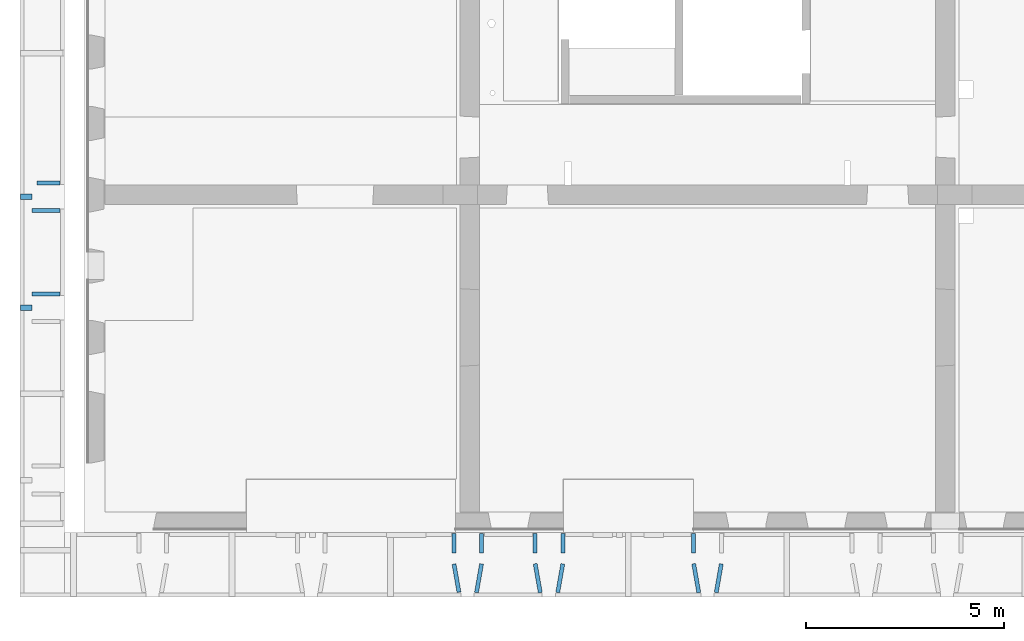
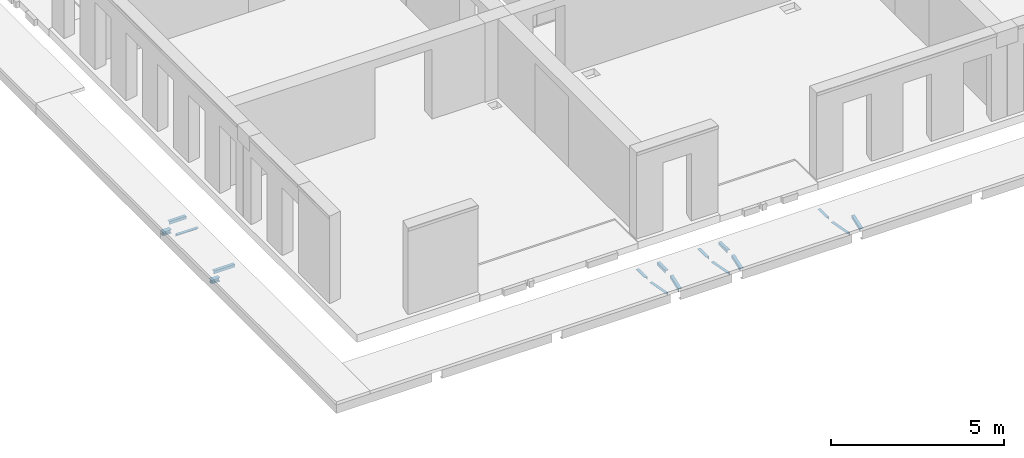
# One storey, part 12 of 27: 16 beams.
"""IFC2X3 building model written with IfcOpenShell, lengths in millimetres."""

from ifc_helpers import new_model, entity, si_unit, converted_unit, derived_unit, direction, frame, frame_2d, origin, place, context, subcontext, project, spatial, polyline, circle_curve, parameter, trimmed, segment, composite_curve, i_section, outline, extrude, material, type_object, element, save


model = new_model("IFC2X3")

# Units and contexts
model_context = context("Model", 3, precision=0.01, world=origin(), true_north=direction((6.12303176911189e-17, 1.0)))
body_context = subcontext(model_context, "Body", "Model", "MODEL_VIEW")
ifc_project = project(units=[si_unit("LENGTHUNIT", "METRE", prefix="MILLI"), si_unit("AREAUNIT", "SQUARE_METRE"), si_unit("VOLUMEUNIT", "CUBIC_METRE"), converted_unit("PLANEANGLEUNIT", "DEGREE", entity("IfcRatioMeasure", 0.0174532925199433), si_unit("PLANEANGLEUNIT", "RADIAN"), dimensions=[0, 0, 0, 0, 0, 0, 0]), si_unit("MASSUNIT", "GRAM", prefix="KILO"), derived_unit("MASSDENSITYUNIT", [(si_unit("MASSUNIT", "GRAM", prefix="KILO"), 1), (si_unit("LENGTHUNIT", "METRE"), -3)]), si_unit("TIMEUNIT", "SECOND"), si_unit("FREQUENCYUNIT", "HERTZ"), si_unit("THERMODYNAMICTEMPERATUREUNIT", "DEGREE_CELSIUS"), derived_unit("THERMALTRANSMITTANCEUNIT", [(si_unit("MASSUNIT", "GRAM", prefix="KILO"), 1), (si_unit("THERMODYNAMICTEMPERATUREUNIT", "KELVIN"), -1), (si_unit("TIMEUNIT", "SECOND"), -3)]), derived_unit("VOLUMETRICFLOWRATEUNIT", [(si_unit("LENGTHUNIT", "METRE"), 3), (si_unit("TIMEUNIT", "SECOND"), -1)]), si_unit("ELECTRICCURRENTUNIT", "AMPERE"), si_unit("ELECTRICVOLTAGEUNIT", "VOLT"), si_unit("POWERUNIT", "WATT"), si_unit("FORCEUNIT", "NEWTON", prefix="KILO"), si_unit("ILLUMINANCEUNIT", "LUX"), si_unit("LUMINOUSFLUXUNIT", "LUMEN"), si_unit("LUMINOUSINTENSITYUNIT", "CANDELA"), derived_unit("USERDEFINED", [(si_unit("MASSUNIT", "GRAM", prefix="KILO"), -1), (si_unit("LENGTHUNIT", "METRE"), -2), (si_unit("TIMEUNIT", "SECOND"), 3), (si_unit("LUMINOUSFLUXUNIT", "LUMEN"), 1)]), derived_unit("LINEARVELOCITYUNIT", [(si_unit("LENGTHUNIT", "METRE"), 1), (si_unit("TIMEUNIT", "SECOND"), -1)]), si_unit("PRESSUREUNIT", "PASCAL"), derived_unit("USERDEFINED", [(si_unit("LENGTHUNIT", "METRE"), -2), (si_unit("MASSUNIT", "GRAM", prefix="KILO"), 1), (si_unit("TIMEUNIT", "SECOND"), -2)])], contexts=[model_context])

# Site, building, storey
site_placement = place(None, origin())
site = spatial("IfcSite", under=ifc_project, at=site_placement, Name="Default", CompositionType="ELEMENT")
building_placement = place(site_placement, origin())
building = spatial("IfcBuilding", under=site, at=building_placement, Name="niet gebruiken", CompositionType="ELEMENT")
storey_placement = place(building_placement, frame((0.0, 0.0, 18000.0)))
storey = spatial("IfcBuildingStorey", under=building, at=storey_placement, Name="05 vijfde verdieping", CompositionType="ELEMENT", Elevation=18000.0)

# Beams
ifc_material = material(Name="NLRS_h2_staal")
beam_type_1 = type_object("IfcBeamType", Name="NLRS_28.11_SF_WPB_stalen ligger HEA_gen:ligger HEA 140", PredefinedType="BEAM")
beam_1_placement = place(storey_placement, frame((124700.0, 10250.0, -1015.0), z_axis=(0.0, 0.0, 1.0), x_axis=(-1.0, 0.0, 0.0)))
element("IfcBeam", 1, at=beam_1_placement, inside=storey, type_object=beam_type_1, material=ifc_material, Name="NLRS_28.11_SF_WPB_stalen ligger HEA_gen:ligger HEA 140", ObjectType="NLRS_28.11_SF_WPB_stalen ligger HEA_gen:ligger HEA 140", context=body_context, shape_type="SweptSolid", body=[
    extrude(i_section(OverallWidth=140.000000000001, OverallDepth=133.0, WebThickness=5.49999999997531, FlangeThickness=8.49999999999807, FilletRadius=11.9999999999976, at=frame_2d((-4.33431068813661e-12, 0.0), x_axis=(0.0, 1.0))), frame((0.0, 0.0, -66.5000000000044), z_axis=(1.0, 0.0, 0.0), x_axis=(0.0, 0.0, -1.0)), (0.0, 0.0, 1.0), 289.999999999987),
])
beam_2_placement = place(storey_placement, frame((124700.0, 7450.0, -1015.0), z_axis=(0.0, 0.0, 1.0), x_axis=(-1.0, 0.0, 0.0)))
element("IfcBeam", 2, at=beam_2_placement, inside=storey, type_object=beam_type_1, material=ifc_material, Name="NLRS_28.11_SF_WPB_stalen ligger HEA_gen:ligger HEA 140", ObjectType="NLRS_28.11_SF_WPB_stalen ligger HEA_gen:ligger HEA 140", context=body_context, shape_type="SweptSolid", body=[
    extrude(i_section(OverallWidth=140.000000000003, OverallDepth=133.0, WebThickness=5.49999999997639, FlangeThickness=8.49999999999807, FilletRadius=11.9999999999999, at=frame_2d((-4.33431068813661e-12, -5.40012479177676e-13), x_axis=(0.0, 1.0))), frame((0.0, 0.0, -66.5000000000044), z_axis=(1.0, 0.0, 0.0), x_axis=(0.0, 0.0, -1.0)), (0.0, 0.0, 1.0), 289.999999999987),
])
beam_type_2 = type_object("IfcBeamType", Name="NLRS_28.11_SF_WPB_stalen ligger hoekprofiel gelijkzijdig_gen:ligger gelijzijdig hoekprofiel LEQU_100x100x10", PredefinedType="BEAM")
beam_3_placement = place(storey_placement, frame((125919.845824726, 9949.75423520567, -1015.0), z_axis=(0.0, 0.0, 1.0), x_axis=(-1.0, 0.0, 0.0)))
element("IfcBeam", 3, at=beam_3_placement, inside=storey, type_object=beam_type_2, material=ifc_material, Name="NLRS_28.11_SF_WPB_stalen ligger hoekprofiel gelijkzijdig_gen:ligger gelijzijdig hoekprofiel LEQU_100x100x10", ObjectType="NLRS_28.11_SF_WPB_stalen ligger hoekprofiel gelijkzijdig_gen:ligger gelijzijdig hoekprofiel LEQU_100x100x10", context=body_context, shape_type="SweptSolid", body=[
    extrude(outline(composite_curve([segment(polyline([(-37.7777777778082, -37.7777777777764), (62.2222222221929, -37.7777777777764)]), True, "CONTINUOUS"), segment(polyline([(62.2222222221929, -37.7777777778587), (62.2222222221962, -33.7777777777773)]), True, "CONTINUOUS"), segment(trimmed(circle_curve(frame_2d((56.222222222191, -33.7777777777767), x_axis=(1.0, 0.0)), 6.00000000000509), [parameter(0.0)], [parameter(89.9999999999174)], True, "PARAMETER"), True, "CONTINUOUS"), segment(polyline([(56.2222222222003, -27.7777777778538), (-15.7777777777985, -27.7777777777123)]), True, "CONTINUOUS"), segment(trimmed(circle_curve(frame_2d((-15.7777777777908, -15.777777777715), x_axis=(0.0, -1.0)), 11.9999999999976), [parameter(269.999999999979)], [parameter(0.0)], True, "PARAMETER"), False, "CONTINUOUS"), segment(polyline([(-27.7777777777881, -15.7777777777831), (-27.7777777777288, 56.222222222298)]), True, "CONTINUOUS"), segment(trimmed(circle_curve(frame_2d((-33.7777777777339, 56.2222222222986), x_axis=(1.0, 0.0)), 6.00000000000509), [parameter(0.0)], [parameter(89.9999999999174)], True, "PARAMETER"), True, "CONTINUOUS"), segment(polyline([(-33.7777777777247, 62.2222222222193), (-37.7777777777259, 62.2222222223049)]), True, "CONTINUOUS"), segment(polyline([(-37.7777777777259, 62.2222222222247), (-37.7777777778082, -37.7777777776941)]), True, "CONTINUOUS")], self_intersect=False)), frame((512.699999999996, 37.7777777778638, -37.7777777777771), z_axis=(1.0, 0.0, 0.0), x_axis=(0.0, 0.0, -1.0)), (0.0, 0.0, 1.0), 707.299999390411),
])
beam_4_placement = place(storey_placement, frame((125919.845824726, 10550.2457647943, -1015.0), z_axis=(0.0, 0.0, 1.0), x_axis=(-1.0, 0.0, 0.0)))
element("IfcBeam", 4, at=beam_4_placement, inside=storey, type_object=beam_type_2, material=ifc_material, Name="NLRS_28.11_SF_WPB_stalen ligger hoekprofiel gelijkzijdig_gen:ligger gelijzijdig hoekprofiel LEQU_100x100x10", ObjectType="NLRS_28.11_SF_WPB_stalen ligger hoekprofiel gelijkzijdig_gen:ligger gelijzijdig hoekprofiel LEQU_100x100x10", context=body_context, shape_type="SweptSolid", body=[
    extrude(outline(composite_curve([segment(polyline([(-37.7777777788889, -62.222222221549), (-33.7777777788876, -62.222222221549)]), True, "CONTINUOUS"), segment(trimmed(circle_curve(frame_2d((-33.7777777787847, -56.2222222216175), x_axis=(0.0, -1.0)), 6.00000000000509), [parameter(0.0)], [parameter(89.9999999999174)], True, "PARAMETER"), True, "CONTINUOUS"), segment(polyline([(-27.7777777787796, -56.222222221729), (-27.7777777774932, 15.7777777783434)]), True, "CONTINUOUS"), segment(trimmed(circle_curve(frame_2d((-15.7777777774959, 15.7777777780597), x_axis=(-1.0, 0.0)), 11.9999999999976), [parameter(269.999999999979)], [parameter(0.0)], True, "PARAMETER"), False, "CONTINUOUS"), segment(polyline([(-15.7777777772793, 27.777777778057), (56.2222222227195, 27.777777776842)]), True, "CONTINUOUS"), segment(trimmed(circle_curve(frame_2d((56.2222222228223, 33.7777777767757), x_axis=(0.0, -1.0)), 6.00000000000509), [parameter(0.0)], [parameter(89.9999999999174)], True, "PARAMETER"), True, "CONTINUOUS"), segment(polyline([(62.2222222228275, 33.7777777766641), (62.2222222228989, 37.7777777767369)]), True, "CONTINUOUS"), segment(polyline([(62.2222222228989, 37.7777777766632), (-37.7777777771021, 37.7777777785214)]), True, "CONTINUOUS"), segment(polyline([(-37.7777777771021, 37.77777777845), (-37.7777777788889, -62.2222222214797)]), True, "CONTINUOUS")], self_intersect=False)), frame((512.699999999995, -37.7777777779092, -37.7777777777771), z_axis=(1.0, 0.0, 0.0), x_axis=(0.0, 0.0, -1.0)), (0.0, 0.0, 1.0), 577.145824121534),
])
beam_5_placement = place(storey_placement, frame((125919.845824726, 7750.2457647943, -1015.0), z_axis=(0.0, 0.0, 1.0), x_axis=(-1.0, 0.0, 0.0)))
element("IfcBeam", 5, at=beam_5_placement, inside=storey, type_object=beam_type_2, material=ifc_material, Name="NLRS_28.11_SF_WPB_stalen ligger hoekprofiel gelijkzijdig_gen:ligger gelijzijdig hoekprofiel LEQU_100x100x10", ObjectType="NLRS_28.11_SF_WPB_stalen ligger hoekprofiel gelijkzijdig_gen:ligger gelijzijdig hoekprofiel LEQU_100x100x10", context=body_context, shape_type="SweptSolid", body=[
    extrude(outline(composite_curve([segment(polyline([(-37.7777777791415, -62.2222222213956), (-33.7777777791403, -62.2222222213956)]), True, "CONTINUOUS"), segment(trimmed(circle_curve(frame_2d((-33.7777777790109, -56.2222222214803), x_axis=(0.0, -1.0)), 6.00000000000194), [parameter(0.0)], [parameter(89.9999999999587)], True, "PARAMETER"), True, "CONTINUOUS"), segment(polyline([(-27.7777777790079, -56.222222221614), (-27.7777777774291, 15.7777777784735)]), True, "CONTINUOUS"), segment(trimmed(circle_curve(frame_2d((-15.7777777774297, 15.7777777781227), x_axis=(-1.0, 0.0)), 11.9999999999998), [parameter(270.0)], [parameter(0.0)], True, "PARAMETER"), False, "CONTINUOUS"), segment(polyline([(-15.7777777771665, 27.7777777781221), (56.2222222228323, 27.777777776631)]), True, "CONTINUOUS"), segment(trimmed(circle_curve(frame_2d((56.2222222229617, 33.7777777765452), x_axis=(0.0, -1.0)), 6.00000000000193), [parameter(0.0)], [parameter(89.9999999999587)], True, "PARAMETER"), True, "CONTINUOUS"), segment(polyline([(62.2222222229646, 33.7777777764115), (62.2222222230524, 37.7777777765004)]), True, "CONTINUOUS"), segment(polyline([(62.2222222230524, 37.7777777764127), (-37.7777777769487, 37.7777777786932)]), True, "CONTINUOUS"), segment(polyline([(-37.7777777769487, 37.7777777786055), (-37.7777777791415, -62.2222222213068)]), True, "CONTINUOUS")], self_intersect=False)), frame((512.699999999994, -37.7777777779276, -37.7777777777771), z_axis=(1.0, 0.0, 0.0), x_axis=(0.0, 0.0, -1.0)), (0.0, 0.0, 1.0), 707.299999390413),
])
beam_6_placement = place(storey_placement, frame((141350.0, 1234.0, -1015.0), z_axis=(0.0, 0.0, 1.0), x_axis=(0.0, 1.0, 0.0)))
element("IfcBeam", 6, at=beam_6_placement, inside=storey, type_object=beam_type_2, material=ifc_material, Name="NLRS_28.11_SF_WPB_stalen ligger hoekprofiel gelijkzijdig_gen:ligger gelijzijdig hoekprofiel LEQU_100x100x10", ObjectType="NLRS_28.11_SF_WPB_stalen ligger hoekprofiel gelijkzijdig_gen:ligger gelijzijdig hoekprofiel LEQU_100x100x10", context=body_context, shape_type="SweptSolid", body=[
    extrude(outline(composite_curve([segment(polyline([(-37.7777777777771, -37.7777777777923), (62.222222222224, -37.7777777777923)]), True, "CONTINUOUS"), segment(polyline([(62.2222222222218, -37.7777777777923), (62.2222222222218, -33.7777777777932)]), True, "CONTINUOUS"), segment(trimmed(circle_curve(frame_2d((56.2222222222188, -33.7777777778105), x_axis=(1.0, 0.0)), 6.00000000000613), [parameter(0.0)], [parameter(89.9999999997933)], True, "PARAMETER"), True, "CONTINUOUS"), segment(polyline([(56.2222222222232, -27.7777777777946), (-15.7777777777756, -27.7777777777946)]), True, "CONTINUOUS"), segment(trimmed(circle_curve(frame_2d((-15.77777777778, -15.7777777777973), x_axis=(0.0, -1.0)), 11.9999999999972), [parameter(269.99999999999)], [parameter(0.0)], True, "PARAMETER"), False, "CONTINUOUS"), segment(polyline([(-27.7777777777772, -15.7777777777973), (-27.7777777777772, 56.2222222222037)]), True, "CONTINUOUS"), segment(trimmed(circle_curve(frame_2d((-33.7777777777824, 56.2222222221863), x_axis=(1.0, 0.0)), 6.00000000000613), [parameter(0.0)], [parameter(89.9999999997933)], True, "PARAMETER"), True, "CONTINUOUS"), segment(polyline([(-33.777777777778, 62.2222222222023), (-37.7777777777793, 62.2222222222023)]), True, "CONTINUOUS"), segment(polyline([(-37.7777777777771, 62.2222222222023), (-37.7777777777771, -37.7777777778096)]), True, "CONTINUOUS")], self_intersect=False)), frame((20.0, -62.2222222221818, -37.7777777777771), z_axis=(1.0, 0.0, 0.0), x_axis=(0.0, 0.0, -1.0)), (0.0, 0.0, 1.0), 496.000000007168),
])
beam_7_placement = place(storey_placement, frame((141480.667404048, 250.795493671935, -1015.0), z_axis=(0.0, 0.0, 1.0), x_axis=(-0.173785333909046, 0.984783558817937, 0.0)))
element("IfcBeam", 7, at=beam_7_placement, inside=storey, type_object=beam_type_2, material=ifc_material, Name="NLRS_28.11_SF_WPB_stalen ligger hoekprofiel gelijkzijdig_gen:ligger gelijzijdig hoekprofiel LEQU_100x100x10", ObjectType="NLRS_28.11_SF_WPB_stalen ligger hoekprofiel gelijkzijdig_gen:ligger gelijzijdig hoekprofiel LEQU_100x100x10", context=body_context, shape_type="SweptSolid", body=[
    extrude(outline(composite_curve([segment(polyline([(-37.7777777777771, -37.7777777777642), (62.222222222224, -37.7777777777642)]), True, "CONTINUOUS"), segment(polyline([(62.2222222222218, -37.7777777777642), (62.2222222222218, -33.7777777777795)]), True, "CONTINUOUS"), segment(trimmed(circle_curve(frame_2d((56.2222222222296, -33.7777777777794), x_axis=(1.0, 0.0)), 5.9999999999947), [parameter(0.0)], [parameter(90.0000000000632)], True, "PARAMETER"), True, "CONTINUOUS"), segment(polyline([(56.2222222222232, -27.7777777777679), (-15.7777777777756, -27.7777777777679)]), True, "CONTINUOUS"), segment(trimmed(circle_curve(frame_2d((-15.7777777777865, -15.7777777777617), x_axis=(0.0, -1.0)), 11.9999999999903), [parameter(269.999999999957)], [parameter(0.0)], True, "PARAMETER"), False, "CONTINUOUS"), segment(polyline([(-27.7777777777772, -15.7777777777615), (-27.7777777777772, 56.2222222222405)]), True, "CONTINUOUS"), segment(trimmed(circle_curve(frame_2d((-33.7777777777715, 56.2222222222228), x_axis=(1.0, 0.0)), 5.99999999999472), [parameter(0.0)], [parameter(90.0000000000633)], True, "PARAMETER"), True, "CONTINUOUS"), segment(polyline([(-33.777777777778, 62.2222222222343), (-37.7777777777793, 62.2222222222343)]), True, "CONTINUOUS"), segment(polyline([(-37.7777777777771, 62.2222222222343), (-37.7777777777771, -37.7777777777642)]), True, "CONTINUOUS")], self_intersect=False)), frame((0.0, -62.2222222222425, -37.7777777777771), z_axis=(1.0, 0.0, 0.0), x_axis=(0.0, 0.0, -1.0)), (0.0, 0.0, 1.0), 740.000000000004),
])
beam_8_placement = place(storey_placement, frame((138150.0, 1234.0, -1015.0), z_axis=(0.0, 0.0, 1.0), x_axis=(0.0, 1.0, 0.0)))
element("IfcBeam", 8, at=beam_8_placement, inside=storey, type_object=beam_type_2, material=ifc_material, Name="NLRS_28.11_SF_WPB_stalen ligger hoekprofiel gelijkzijdig_gen:ligger gelijzijdig hoekprofiel LEQU_100x100x10", ObjectType="NLRS_28.11_SF_WPB_stalen ligger hoekprofiel gelijkzijdig_gen:ligger gelijzijdig hoekprofiel LEQU_100x100x10", context=body_context, shape_type="SweptSolid", body=[
    extrude(outline(composite_curve([segment(polyline([(-37.7777777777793, -62.222222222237), (-33.777777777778, -62.222222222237)]), True, "CONTINUOUS"), segment(trimmed(circle_curve(frame_2d((-33.7777777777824, -56.222222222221), x_axis=(0.0, -1.0)), 6.00000000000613), [parameter(0.0)], [parameter(89.9999999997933)], True, "PARAMETER"), True, "CONTINUOUS"), segment(polyline([(-27.7777777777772, -56.2222222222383), (-27.7777777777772, 15.7777777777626)]), True, "CONTINUOUS"), segment(trimmed(circle_curve(frame_2d((-15.77777777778, 15.7777777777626), x_axis=(-1.0, 0.0)), 11.9999999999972), [parameter(269.99999999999)], [parameter(0.0)], True, "PARAMETER"), False, "CONTINUOUS"), segment(polyline([(-15.7777777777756, 27.7777777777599), (56.2222222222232, 27.7777777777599)]), True, "CONTINUOUS"), segment(trimmed(circle_curve(frame_2d((56.2222222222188, 33.7777777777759), x_axis=(0.0, -1.0)), 6.00000000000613), [parameter(0.0)], [parameter(89.9999999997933)], True, "PARAMETER"), True, "CONTINUOUS"), segment(polyline([(62.2222222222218, 33.7777777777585), (62.2222222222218, 37.7777777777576)]), True, "CONTINUOUS"), segment(polyline([(62.222222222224, 37.7777777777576), (-37.7777777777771, 37.7777777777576)]), True, "CONTINUOUS"), segment(polyline([(-37.7777777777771, 37.7777777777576), (-37.7777777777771, -62.222222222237)]), True, "CONTINUOUS")], self_intersect=False)), frame((20.0, 62.2222222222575, -37.7777777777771), z_axis=(1.0, 0.0, 0.0), x_axis=(0.0, 0.0, -1.0)), (0.0, 0.0, 1.0), 495.999999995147),
])
beam_9_placement = place(storey_placement, frame((138019.712800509, 252.949986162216, -1015.0), z_axis=(0.0, 0.0, 1.0), x_axis=(0.173785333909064, 0.984783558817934, 0.0)))
element("IfcBeam", 9, at=beam_9_placement, inside=storey, type_object=beam_type_2, material=ifc_material, Name="NLRS_28.11_SF_WPB_stalen ligger hoekprofiel gelijkzijdig_gen:ligger gelijzijdig hoekprofiel LEQU_100x100x10", ObjectType="NLRS_28.11_SF_WPB_stalen ligger hoekprofiel gelijkzijdig_gen:ligger gelijzijdig hoekprofiel LEQU_100x100x10", context=body_context, shape_type="SweptSolid", body=[
    extrude(outline(composite_curve([segment(polyline([(-37.7777777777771, -62.2222222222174), (-33.7777777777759, -62.2222222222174)]), True, "CONTINUOUS"), segment(trimmed(circle_curve(frame_2d((-33.7777777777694, -56.2222222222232), x_axis=(0.0, -1.0)), 5.99999999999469), [parameter(0.0)], [parameter(90.0000000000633)], True, "PARAMETER"), True, "CONTINUOUS"), segment(polyline([(-27.7777777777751, -56.2222222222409), (-27.7777777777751, 15.7777777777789)]), True, "CONTINUOUS"), segment(trimmed(circle_curve(frame_2d((-15.7777777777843, 15.7777777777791), x_axis=(-1.0, 0.0)), 11.9999999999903), [parameter(269.999999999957)], [parameter(0.0)], True, "PARAMETER"), False, "CONTINUOUS"), segment(polyline([(-15.7777777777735, 27.7777777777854), (56.2222222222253, 27.7777777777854)]), True, "CONTINUOUS"), segment(trimmed(circle_curve(frame_2d((56.2222222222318, 33.7777777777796), x_axis=(0.0, -1.0)), 5.99999999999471), [parameter(0.0)], [parameter(90.0000000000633)], True, "PARAMETER"), True, "CONTINUOUS"), segment(polyline([(62.222222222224, 33.7777777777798), (62.222222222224, 37.7777777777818)]), True, "CONTINUOUS"), segment(polyline([(62.2222222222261, 37.7777777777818), (-37.777777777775, 37.7777777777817)]), True, "CONTINUOUS"), segment(polyline([(-37.777777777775, 37.7777777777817), (-37.777777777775, -62.2222222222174)]), True, "CONTINUOUS")], self_intersect=False)), frame((0.0, 62.2222222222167, -37.777777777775), z_axis=(1.0, 0.0, 0.0), x_axis=(0.0, 0.0, -1.0)), (0.0, 0.0, 1.0), 732.812217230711),
])
beam_10_placement = place(storey_placement, frame((142019.712800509, 252.949986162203, -1015.0), z_axis=(0.0, 0.0, 1.0), x_axis=(0.173785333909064, 0.984783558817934, 0.0)))
element("IfcBeam", 10, at=beam_10_placement, inside=storey, type_object=beam_type_2, material=ifc_material, Name="NLRS_28.11_SF_WPB_stalen ligger hoekprofiel gelijkzijdig_gen:ligger gelijzijdig hoekprofiel LEQU_100x100x10", ObjectType="NLRS_28.11_SF_WPB_stalen ligger hoekprofiel gelijkzijdig_gen:ligger gelijzijdig hoekprofiel LEQU_100x100x10", context=body_context, shape_type="SweptSolid", body=[
    extrude(outline(composite_curve([segment(polyline([(-37.7777777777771, -62.2222222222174), (-33.7777777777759, -62.2222222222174)]), True, "CONTINUOUS"), segment(trimmed(circle_curve(frame_2d((-33.7777777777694, -56.2222222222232), x_axis=(0.0, -1.0)), 5.99999999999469), [parameter(0.0)], [parameter(90.0000000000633)], True, "PARAMETER"), True, "CONTINUOUS"), segment(polyline([(-27.7777777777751, -56.2222222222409), (-27.7777777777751, 15.7777777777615)]), True, "CONTINUOUS"), segment(trimmed(circle_curve(frame_2d((-15.7777777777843, 15.7777777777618), x_axis=(-1.0, 0.0)), 11.9999999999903), [parameter(269.999999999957)], [parameter(0.0)], True, "PARAMETER"), False, "CONTINUOUS"), segment(polyline([(-15.7777777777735, 27.7777777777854), (56.2222222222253, 27.7777777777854)]), True, "CONTINUOUS"), segment(trimmed(circle_curve(frame_2d((56.2222222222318, 33.7777777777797), x_axis=(0.0, -1.0)), 5.99999999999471), [parameter(0.0)], [parameter(90.0000000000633)], True, "PARAMETER"), True, "CONTINUOUS"), segment(polyline([(62.222222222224, 33.7777777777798), (62.222222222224, 37.7777777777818)]), True, "CONTINUOUS"), segment(polyline([(62.2222222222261, 37.7777777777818), (-37.777777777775, 37.7777777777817)]), True, "CONTINUOUS"), segment(polyline([(-37.777777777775, 37.7777777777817), (-37.777777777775, -62.2222222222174)]), True, "CONTINUOUS")], self_intersect=False)), frame((0.0, 62.2222222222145, -37.777777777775), z_axis=(1.0, 0.0, 0.0), x_axis=(0.0, 0.0, -1.0)), (0.0, 0.0, 1.0), 732.812217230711),
])
beam_11_placement = place(storey_placement, frame((135300.0, 1234.0, -1015.0), z_axis=(0.0, 0.0, 1.0), x_axis=(0.0, 1.0, 0.0)))
element("IfcBeam", 11, at=beam_11_placement, inside=storey, type_object=beam_type_2, material=ifc_material, Name="NLRS_28.11_SF_WPB_stalen ligger hoekprofiel gelijkzijdig_gen:ligger gelijzijdig hoekprofiel LEQU_100x100x10", ObjectType="NLRS_28.11_SF_WPB_stalen ligger hoekprofiel gelijkzijdig_gen:ligger gelijzijdig hoekprofiel LEQU_100x100x10", context=body_context, shape_type="SweptSolid", body=[
    extrude(outline(composite_curve([segment(polyline([(-37.7777777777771, -37.777777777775), (62.222222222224, -37.777777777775)]), True, "CONTINUOUS"), segment(polyline([(62.2222222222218, -37.777777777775), (62.2222222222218, -33.7777777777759)]), True, "CONTINUOUS"), segment(trimmed(circle_curve(frame_2d((56.2222222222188, -33.7777777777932), x_axis=(1.0, 0.0)), 6.00000000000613), [parameter(0.0)], [parameter(89.9999999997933)], True, "PARAMETER"), True, "CONTINUOUS"), segment(polyline([(56.2222222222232, -27.7777777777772), (-15.7777777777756, -27.7777777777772)]), True, "CONTINUOUS"), segment(trimmed(circle_curve(frame_2d((-15.77777777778, -15.77777777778), x_axis=(0.0, -1.0)), 11.9999999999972), [parameter(269.99999999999)], [parameter(0.0)], True, "PARAMETER"), False, "CONTINUOUS"), segment(polyline([(-27.7777777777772, -15.77777777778), (-27.7777777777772, 56.222222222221)]), True, "CONTINUOUS"), segment(trimmed(circle_curve(frame_2d((-33.7777777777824, 56.2222222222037), x_axis=(1.0, 0.0)), 6.00000000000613), [parameter(0.0)], [parameter(89.9999999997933)], True, "PARAMETER"), True, "CONTINUOUS"), segment(polyline([(-33.777777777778, 62.2222222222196), (-37.7777777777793, 62.2222222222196)]), True, "CONTINUOUS"), segment(polyline([(-37.7777777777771, 62.2222222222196), (-37.7777777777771, -37.7777777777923)]), True, "CONTINUOUS")], self_intersect=False)), frame((20.0, -62.2222222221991, -37.7777777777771), z_axis=(1.0, 0.0, 0.0), x_axis=(0.0, 0.0, -1.0)), (0.0, 0.0, 1.0), 496.000000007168),
])
beam_12_placement = place(storey_placement, frame((135428.701764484, 261.934117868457, -1015.0), z_axis=(0.0, 0.0, 1.0), x_axis=(-0.173785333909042, 0.984783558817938, 0.0)))
element("IfcBeam", 12, at=beam_12_placement, inside=storey, type_object=beam_type_2, material=ifc_material, Name="NLRS_28.11_SF_WPB_stalen ligger hoekprofiel gelijkzijdig_gen:ligger gelijzijdig hoekprofiel LEQU_100x100x10", ObjectType="NLRS_28.11_SF_WPB_stalen ligger hoekprofiel gelijkzijdig_gen:ligger gelijzijdig hoekprofiel LEQU_100x100x10", context=body_context, shape_type="SweptSolid", body=[
    extrude(outline(composite_curve([segment(polyline([(-37.7777777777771, -37.7777777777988), (62.222222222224, -37.7777777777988)]), True, "CONTINUOUS"), segment(polyline([(62.2222222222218, -37.7777777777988), (62.2222222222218, -33.7777777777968)]), True, "CONTINUOUS"), segment(trimmed(circle_curve(frame_2d((56.2222222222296, -33.7777777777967), x_axis=(1.0, 0.0)), 5.9999999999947), [parameter(0.0)], [parameter(90.0000000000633)], True, "PARAMETER"), True, "CONTINUOUS"), segment(polyline([(56.2222222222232, -27.7777777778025), (-15.7777777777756, -27.7777777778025)]), True, "CONTINUOUS"), segment(trimmed(circle_curve(frame_2d((-15.7777777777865, -15.777777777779), x_axis=(0.0, -1.0)), 11.9999999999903), [parameter(269.999999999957)], [parameter(0.0)], True, "PARAMETER"), False, "CONTINUOUS"), segment(polyline([(-27.7777777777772, -15.7777777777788), (-27.7777777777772, 56.2222222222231)]), True, "CONTINUOUS"), segment(trimmed(circle_curve(frame_2d((-33.7777777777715, 56.2222222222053), x_axis=(1.0, 0.0)), 5.99999999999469), [parameter(0.0)], [parameter(90.0000000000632)], True, "PARAMETER"), True, "CONTINUOUS"), segment(polyline([(-33.777777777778, 62.2222222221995), (-37.7777777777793, 62.2222222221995)]), True, "CONTINUOUS"), segment(polyline([(-37.7777777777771, 62.2222222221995), (-37.7777777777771, -37.7777777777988)]), True, "CONTINUOUS")], self_intersect=False)), frame((0.0, -62.2222222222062, -37.7777777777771), z_axis=(1.0, 0.0, 0.0), x_axis=(0.0, 0.0, -1.0)), (0.0, 0.0, 1.0), 720.000000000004),
])
beam_13_placement = place(storey_placement, frame((137350.0, 1234.0, -1015.0), z_axis=(0.0, 0.0, 1.0), x_axis=(0.0, 1.0, 0.0)))
element("IfcBeam", 13, at=beam_13_placement, inside=storey, type_object=beam_type_2, material=ifc_material, Name="NLRS_28.11_SF_WPB_stalen ligger hoekprofiel gelijkzijdig_gen:ligger gelijzijdig hoekprofiel LEQU_100x100x10", ObjectType="NLRS_28.11_SF_WPB_stalen ligger hoekprofiel gelijkzijdig_gen:ligger gelijzijdig hoekprofiel LEQU_100x100x10", context=body_context, shape_type="SweptSolid", body=[
    extrude(outline(composite_curve([segment(polyline([(-37.7777777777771, -37.7777777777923), (62.222222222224, -37.7777777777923)]), True, "CONTINUOUS"), segment(polyline([(62.2222222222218, -37.7777777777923), (62.2222222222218, -33.7777777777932)]), True, "CONTINUOUS"), segment(trimmed(circle_curve(frame_2d((56.2222222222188, -33.7777777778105), x_axis=(1.0, 0.0)), 6.00000000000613), [parameter(0.0)], [parameter(89.9999999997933)], True, "PARAMETER"), True, "CONTINUOUS"), segment(polyline([(56.2222222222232, -27.7777777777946), (-15.7777777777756, -27.7777777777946)]), True, "CONTINUOUS"), segment(trimmed(circle_curve(frame_2d((-15.77777777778, -15.7777777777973), x_axis=(0.0, -1.0)), 11.9999999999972), [parameter(269.99999999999)], [parameter(0.0)], True, "PARAMETER"), False, "CONTINUOUS"), segment(polyline([(-27.7777777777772, -15.7777777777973), (-27.7777777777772, 56.2222222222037)]), True, "CONTINUOUS"), segment(trimmed(circle_curve(frame_2d((-33.7777777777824, 56.2222222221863), x_axis=(1.0, 0.0)), 6.00000000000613), [parameter(0.0)], [parameter(89.9999999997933)], True, "PARAMETER"), True, "CONTINUOUS"), segment(polyline([(-33.777777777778, 62.2222222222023), (-37.7777777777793, 62.2222222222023)]), True, "CONTINUOUS"), segment(polyline([(-37.7777777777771, 62.2222222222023), (-37.7777777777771, -37.7777777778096)]), True, "CONTINUOUS")], self_intersect=False)), frame((20.0, -62.2222222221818, -37.7777777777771), z_axis=(1.0, 0.0, 0.0), x_axis=(0.0, 0.0, -1.0)), (0.0, 0.0, 1.0), 496.000000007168),
])
beam_14_placement = place(storey_placement, frame((137480.667404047, 250.795493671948, -1015.0), z_axis=(0.0, 0.0, 1.0), x_axis=(-0.173785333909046, 0.984783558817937, 0.0)))
element("IfcBeam", 14, at=beam_14_placement, inside=storey, type_object=beam_type_2, material=ifc_material, Name="NLRS_28.11_SF_WPB_stalen ligger hoekprofiel gelijkzijdig_gen:ligger gelijzijdig hoekprofiel LEQU_100x100x10", ObjectType="NLRS_28.11_SF_WPB_stalen ligger hoekprofiel gelijkzijdig_gen:ligger gelijzijdig hoekprofiel LEQU_100x100x10", context=body_context, shape_type="SweptSolid", body=[
    extrude(outline(composite_curve([segment(polyline([(-37.7777777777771, -37.7777777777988), (62.222222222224, -37.7777777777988)]), True, "CONTINUOUS"), segment(polyline([(62.2222222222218, -37.7777777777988), (62.2222222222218, -33.7777777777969)]), True, "CONTINUOUS"), segment(trimmed(circle_curve(frame_2d((56.2222222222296, -33.7777777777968), x_axis=(1.0, 0.0)), 5.9999999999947), [parameter(0.0)], [parameter(90.0000000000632)], True, "PARAMETER"), True, "CONTINUOUS"), segment(polyline([(56.2222222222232, -27.7777777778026), (-15.7777777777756, -27.7777777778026)]), True, "CONTINUOUS"), segment(trimmed(circle_curve(frame_2d((-15.7777777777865, -15.777777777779), x_axis=(0.0, -1.0)), 11.9999999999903), [parameter(269.999999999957)], [parameter(0.0)], True, "PARAMETER"), False, "CONTINUOUS"), segment(polyline([(-27.7777777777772, -15.7777777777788), (-27.7777777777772, 56.2222222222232)]), True, "CONTINUOUS"), segment(trimmed(circle_curve(frame_2d((-33.7777777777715, 56.2222222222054), x_axis=(1.0, 0.0)), 5.99999999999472), [parameter(0.0)], [parameter(90.0000000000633)], True, "PARAMETER"), True, "CONTINUOUS"), segment(polyline([(-33.777777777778, 62.2222222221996), (-37.7777777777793, 62.2222222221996)]), True, "CONTINUOUS"), segment(polyline([(-37.7777777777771, 62.2222222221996), (-37.7777777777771, -37.7777777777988)]), True, "CONTINUOUS")], self_intersect=False)), frame((0.0, -62.2222222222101, -37.7777777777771), z_axis=(1.0, 0.0, 0.0), x_axis=(0.0, 0.0, -1.0)), (0.0, 0.0, 1.0), 740.000000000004),
])
beam_15_placement = place(storey_placement, frame((136100.0, 1234.0, -1015.0), z_axis=(0.0, 0.0, 1.0), x_axis=(0.0, 1.0, 0.0)))
element("IfcBeam", 15, at=beam_15_placement, inside=storey, type_object=beam_type_2, material=ifc_material, Name="NLRS_28.11_SF_WPB_stalen ligger hoekprofiel gelijkzijdig_gen:ligger gelijzijdig hoekprofiel LEQU_100x100x10", ObjectType="NLRS_28.11_SF_WPB_stalen ligger hoekprofiel gelijkzijdig_gen:ligger gelijzijdig hoekprofiel LEQU_100x100x10", context=body_context, shape_type="SweptSolid", body=[
    extrude(outline(composite_curve([segment(polyline([(-37.7777777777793, -62.222222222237), (-33.777777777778, -62.222222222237)]), True, "CONTINUOUS"), segment(trimmed(circle_curve(frame_2d((-33.7777777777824, -56.222222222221), x_axis=(0.0, -1.0)), 6.00000000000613), [parameter(0.0)], [parameter(89.9999999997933)], True, "PARAMETER"), True, "CONTINUOUS"), segment(polyline([(-27.7777777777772, -56.2222222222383), (-27.7777777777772, 15.7777777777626)]), True, "CONTINUOUS"), segment(trimmed(circle_curve(frame_2d((-15.77777777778, 15.7777777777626), x_axis=(-1.0, 0.0)), 11.9999999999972), [parameter(269.99999999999)], [parameter(0.0)], True, "PARAMETER"), False, "CONTINUOUS"), segment(polyline([(-15.7777777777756, 27.7777777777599), (56.2222222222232, 27.7777777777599)]), True, "CONTINUOUS"), segment(trimmed(circle_curve(frame_2d((56.2222222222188, 33.7777777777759), x_axis=(0.0, -1.0)), 6.00000000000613), [parameter(0.0)], [parameter(89.9999999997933)], True, "PARAMETER"), True, "CONTINUOUS"), segment(polyline([(62.2222222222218, 33.7777777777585), (62.2222222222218, 37.7777777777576)]), True, "CONTINUOUS"), segment(polyline([(62.222222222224, 37.7777777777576), (-37.7777777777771, 37.7777777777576)]), True, "CONTINUOUS"), segment(polyline([(-37.7777777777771, 37.7777777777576), (-37.7777777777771, -62.222222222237)]), True, "CONTINUOUS")], self_intersect=False)), frame((20.0, 62.2222222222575, -37.7777777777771), z_axis=(1.0, 0.0, 0.0), x_axis=(0.0, 0.0, -1.0)), (0.0, 0.0, 1.0), 495.999999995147),
])
beam_16_placement = place(storey_placement, frame((135969.712800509, 252.949986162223, -1015.0), z_axis=(0.0, 0.0, 1.0), x_axis=(0.173785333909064, 0.984783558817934, 0.0)))
element("IfcBeam", 16, at=beam_16_placement, inside=storey, type_object=beam_type_2, material=ifc_material, Name="NLRS_28.11_SF_WPB_stalen ligger hoekprofiel gelijkzijdig_gen:ligger gelijzijdig hoekprofiel LEQU_100x100x10", ObjectType="NLRS_28.11_SF_WPB_stalen ligger hoekprofiel gelijkzijdig_gen:ligger gelijzijdig hoekprofiel LEQU_100x100x10", context=body_context, shape_type="SweptSolid", body=[
    extrude(outline(composite_curve([segment(polyline([(-37.7777777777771, -62.2222222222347), (-33.7777777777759, -62.2222222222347)]), True, "CONTINUOUS"), segment(trimmed(circle_curve(frame_2d((-33.7777777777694, -56.2222222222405), x_axis=(0.0, -1.0)), 5.99999999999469), [parameter(0.0)], [parameter(90.0000000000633)], True, "PARAMETER"), True, "CONTINUOUS"), segment(polyline([(-27.7777777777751, -56.2222222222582), (-27.7777777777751, 15.7777777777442)]), True, "CONTINUOUS"), segment(trimmed(circle_curve(frame_2d((-15.7777777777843, 15.7777777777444), x_axis=(-1.0, 0.0)), 11.9999999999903), [parameter(269.999999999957)], [parameter(0.0)], True, "PARAMETER"), False, "CONTINUOUS"), segment(polyline([(-15.7777777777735, 27.7777777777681), (56.2222222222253, 27.7777777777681)]), True, "CONTINUOUS"), segment(trimmed(circle_curve(frame_2d((56.2222222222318, 33.7777777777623), x_axis=(0.0, -1.0)), 5.99999999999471), [parameter(0.0)], [parameter(90.0000000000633)], True, "PARAMETER"), True, "CONTINUOUS"), segment(polyline([(62.222222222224, 33.7777777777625), (62.222222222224, 37.7777777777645)]), True, "CONTINUOUS"), segment(polyline([(62.2222222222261, 37.7777777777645), (-37.777777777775, 37.7777777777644)]), True, "CONTINUOUS"), segment(polyline([(-37.777777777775, 37.7777777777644), (-37.777777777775, -62.2222222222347)]), True, "CONTINUOUS")], self_intersect=False)), frame((0.0, 62.2222222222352, -37.7777777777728), z_axis=(1.0, 0.0, 0.0), x_axis=(0.0, 0.0, -1.0)), (0.0, 0.0, 1.0), 732.812217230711),
])

save(model, "model.ifc")
